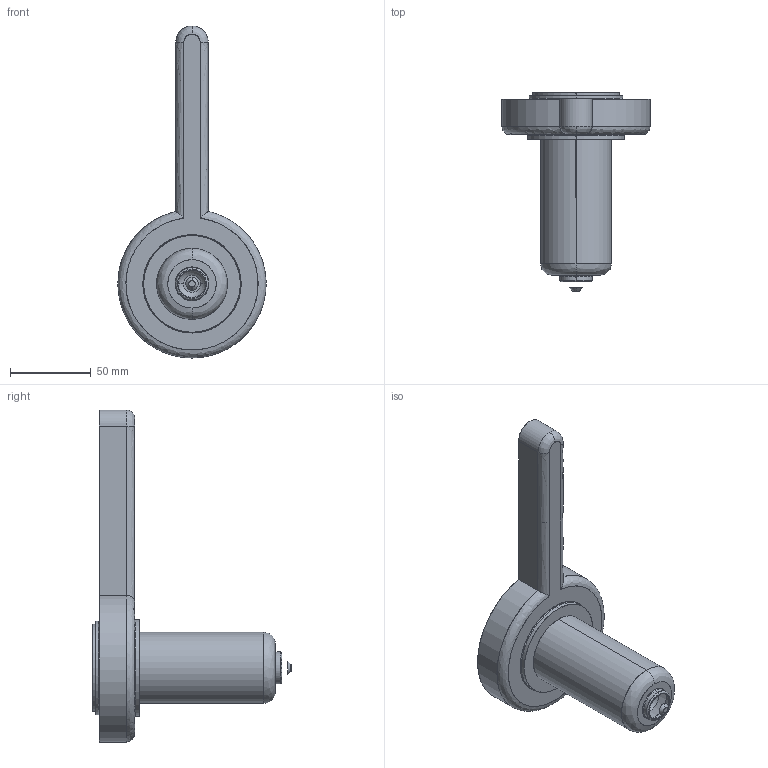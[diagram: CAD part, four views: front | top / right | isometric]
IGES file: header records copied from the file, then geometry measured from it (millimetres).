
Start section: SolidWorks IGES file using analytic representation for surfaces
Global section: file name: C:\Documents and Settings\ws-20\Desktop\TEM\Sede UGEP6004-S-A C-94 L-121 Ød-4.0.IGS; native system: SolidWorks 2012; preprocessor: SolidWorks 2012; author: ws-20; date: 120427.103158; units: millimetre
Bounding box: 91.98 x 123.24 x 206 mm (x, y, z)
Surface area: 40614.4 mm2 (no closed solid volume)
Topology: 0 solids, 0 shells, 44 faces, 984 edges, 984 vertices
Faces by surface type: revolution 27, bspline 17
